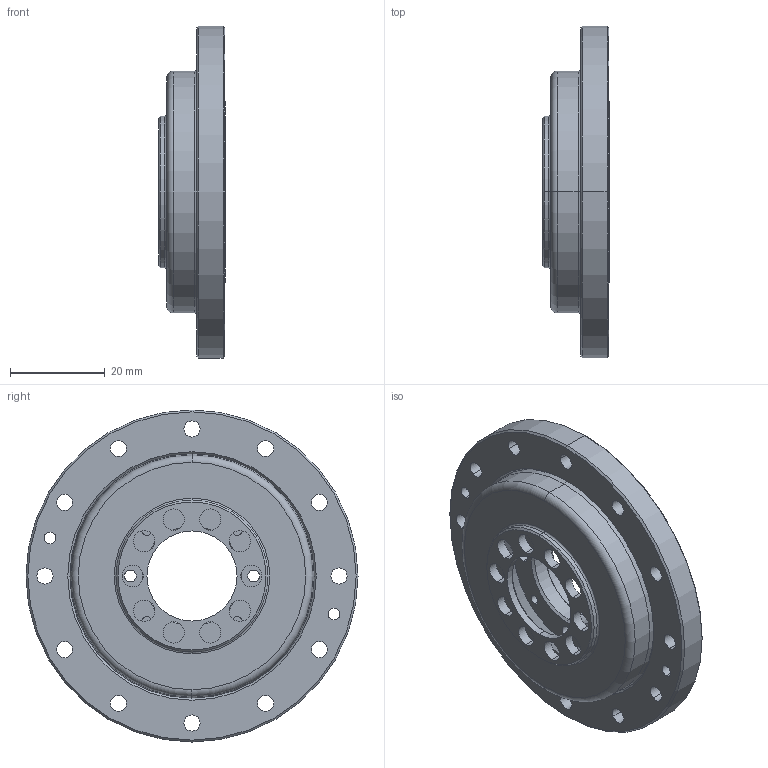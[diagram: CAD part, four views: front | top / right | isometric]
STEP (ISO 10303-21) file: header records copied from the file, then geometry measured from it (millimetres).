
FILE_DESCRIPTION (( 'STEP AP203' ), '1' );
FILE_NAME ('LCD-20-XXX-P-I.STEP', '2017-04-06T05:17:20', ( 'Windows 蚚誧' ), ( 'Users' ), 'SwSTEP 2.0', 'SolidWorks 2013', '' );
FILE_SCHEMA (( 'CONFIG_CONTROL_DESIGN' ));
Length unit declared in the file: millimetre
Products named in the file (9): LCD-20-XXX-P02-I; LCD-20-XXX-P-I; LCD-20-XXX-P03; DB-20-I; RZC-20内外圈+钢球; RZC-20悵厥殤; 柔性轴承RZC-20; LCD-20-XXX-P01; ISO 7046-1 - M2.5 x 4 - Z --- 4C_ISO 7046-1 - M2.5 x 4 - Z --- 4C
Assembly tree (11 placements, depth 3):
  LCD-20-XXX-P-I
    LCD-20-XXX-P03
    DB-20-I
    柔性轴承RZC-20
      RZC-20内外圈+钢球
      RZC-20悵厥殤
    LCD-20-XXX-P01
    ISO 7046-1 - M2.5 x 4 - Z --- 4C_ISO 7046-1 - M2.5 x 4 - Z --- 4C  x4
    LCD-20-XXX-P02-I
Bounding box: 14.1 x 70 x 70 mm (x, y, z)
Volume: 20148.2 mm3; surface area: 27586.2 mm2
Topology: 10 solids, 10 shells, 600 faces, 1865 edges, 1202 vertices
Faces by surface type: cylinder 228, plane 171, cone 109, sphere 50, torus 42
Entity records: 18919 total; most frequent: CARTESIAN_POINT 4452, DIRECTION 2981, ORIENTED_EDGE 2862, EDGE_CURVE 1431, AXIS2_PLACEMENT_3D 1321, VERTEX_POINT 940, CIRCLE 829, EDGE_LOOP 591
